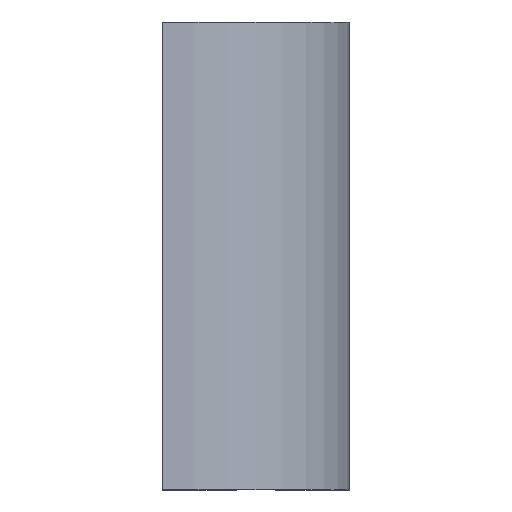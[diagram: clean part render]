
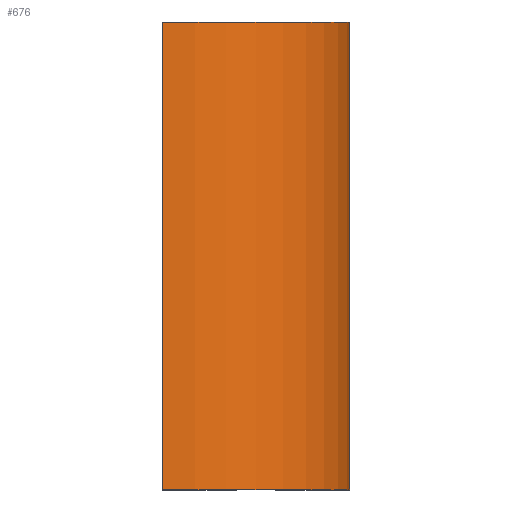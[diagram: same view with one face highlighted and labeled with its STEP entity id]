
A CAD part, top view. The second image highlights one B-rep face of the part: STEP entity #676.
In plain terms, the highlighted cylindrical face has radius 40 mm (diameter 80 mm), a partial arc.
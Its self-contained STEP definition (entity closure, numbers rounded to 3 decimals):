
#53=CIRCLE('',#732,40.);
#64=CIRCLE('',#744,40.);
#160=ORIENTED_EDGE('',*,*,#309,.T.);
#161=ORIENTED_EDGE('',*,*,#331,.F.);
#162=ORIENTED_EDGE('',*,*,#294,.F.);
#163=ORIENTED_EDGE('',*,*,#335,.T.);
#294=EDGE_CURVE('',#388,#370,#53,.T.);
#309=EDGE_CURVE('',#402,#401,#64,.T.);
#331=EDGE_CURVE('',#370,#401,#462,.T.);
#335=EDGE_CURVE('',#388,#402,#466,.T.);
#370=VERTEX_POINT('',#1014);
#388=VERTEX_POINT('',#1049);
#401=VERTEX_POINT('',#1078);
#402=VERTEX_POINT('',#1080);
#462=LINE('',#1121,#527);
#466=LINE('',#1127,#531);
#527=VECTOR('',#894,1000.);
#531=VECTOR('',#902,1000.);
#571=EDGE_LOOP('',(#160,#161,#162,#163));
#622=FACE_BOUND('',#571,.T.);
#655=CYLINDRICAL_SURFACE('',#754,40.);
#676=ADVANCED_FACE('',(#622),#655,.T.);
#732=AXIS2_PLACEMENT_3D('',#1050,#836,#837);
#744=AXIS2_PLACEMENT_3D('',#1079,#864,#865);
#754=AXIS2_PLACEMENT_3D('',#1130,#906,#907);
#836=DIRECTION('',(0.,1.,0.));
#837=DIRECTION('',(-1.,0.,0.));
#864=DIRECTION('',(0.,1.,0.));
#865=DIRECTION('',(-1.,0.,0.));
#894=DIRECTION('',(0.,-1.,0.));
#902=DIRECTION('',(0.,-1.,0.));
#906=DIRECTION('',(0.,-1.,0.));
#907=DIRECTION('',(0.,0.,-1.));
#1014=CARTESIAN_POINT('',(40.,50.,0.));
#1049=CARTESIAN_POINT('',(0.,50.,40.));
#1050=CARTESIAN_POINT('',(0.,50.,0.));
#1078=CARTESIAN_POINT('',(40.,-50.,0.));
#1079=CARTESIAN_POINT('',(0.,-50.,0.));
#1080=CARTESIAN_POINT('',(0.,-50.,40.));
#1121=CARTESIAN_POINT('',(40.,100.,0.));
#1127=CARTESIAN_POINT('',(0.,100.,40.));
#1130=CARTESIAN_POINT('',(0.,100.,0.));
